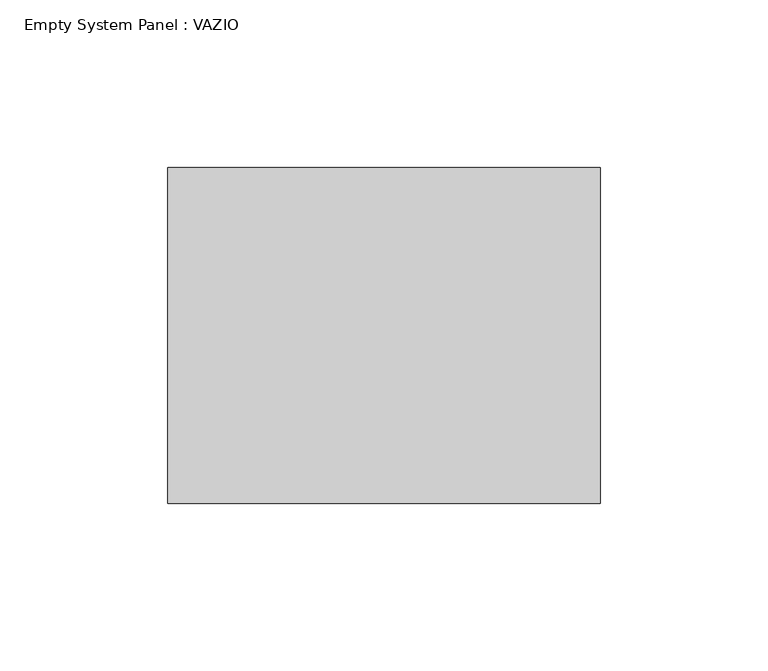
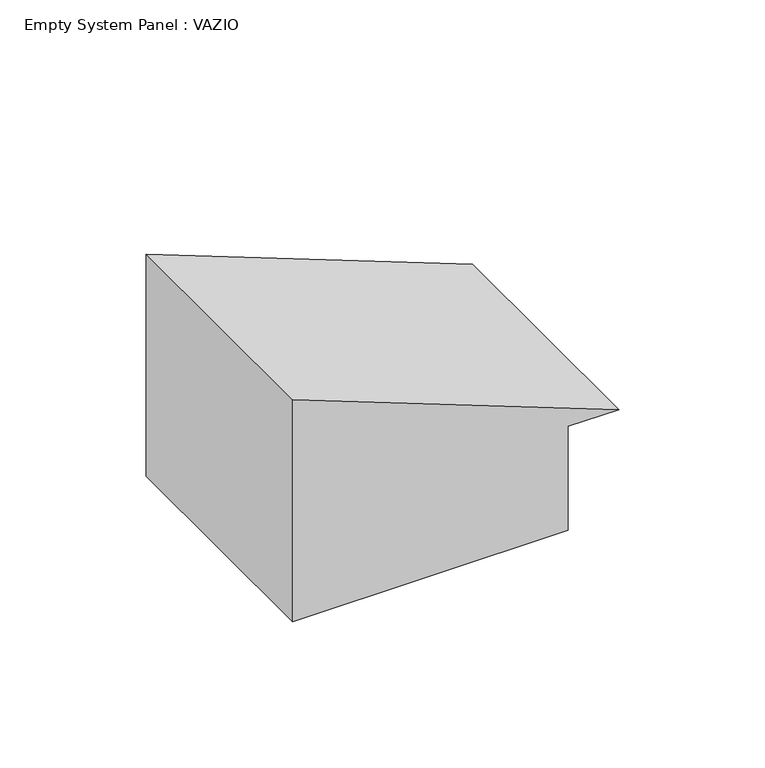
"""IFC4 building model written with IfcOpenShell, lengths in millimetres: plate geometry, Empty System Panel : VAZIO."""

from ifc_helpers import new_model, si_unit, point, frame, frame_2d, origin, place, context, project, spatial, polyline, circle_curve, trimmed, segment, composite_curve, outline, extrude, source, transform, mapped, element, save


def empty_system_panel_vazio_f328f28e(model_context):
    return source(origin(), model_context, "Body", "SweptSolid", [
        extrude(outline(composite_curve([segment(polyline([(0.0, -64.3902439), (0.0, 44.3902439), (43.421292, 44.3902439), (43.421292, 64.3902439)]), True, "CONTINUOUS"), segment(trimmed(circle_curve(frame_2d((-2933.8559746, -1145.8536585)), 3213.8559746), [point((43.421292, 64.3902439))], [point((92.5787444, -64.3902439))], False, "CARTESIAN"), True, "CONTINUOUS"), segment(polyline([(92.5787444, -64.3902439), (0.0, -64.3902439)]), True, "CONTINUOUS")], self_intersect=False)), frame((0.0, -50.0, 0.0), z_axis=(0.0, 1.0, 0.0), x_axis=(0.0, 0.0, 1.0)), (0.0, 0.0, 1.0), 100.0),
    ])


if __name__ == "__main__":
    model = new_model("IFC4")
    model_context = context("Model", 3, world=origin())
    ifc_project = project(units=[si_unit("LENGTHUNIT", "METRE", prefix="MILLI")], contexts=[model_context])
    site = spatial("IfcSite", under=ifc_project)
    building = spatial("IfcBuilding", under=site)
    placement = place(None, origin())
    empty_system_panel_vazio_shape = empty_system_panel_vazio_f328f28e(model_context)
    element("IfcPlate", 1, ObjectType="Empty System Panel : VAZIO", at=placement, inside=building, context=model_context, shape_type="MappedRepresentation", body=[
        mapped(empty_system_panel_vazio_shape, transform((0.0, 0.0, 0.0), x_axis=(1.0, 0.0, 0.0), y_axis=(0.0, 1.0, 0.0), z_axis=(0.0, 0.0, 1.0))),
    ])
    save(model, "model.ifc")
